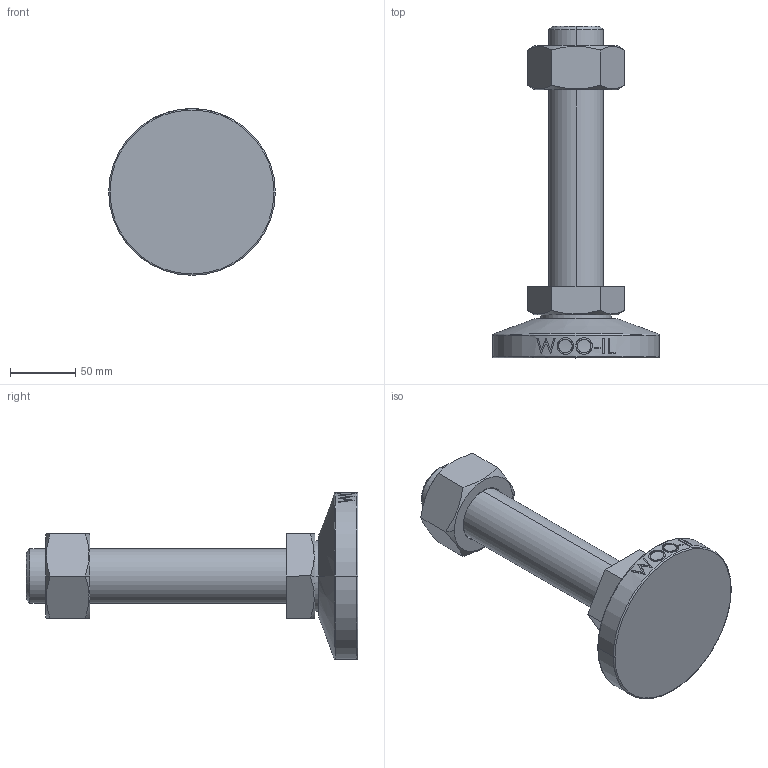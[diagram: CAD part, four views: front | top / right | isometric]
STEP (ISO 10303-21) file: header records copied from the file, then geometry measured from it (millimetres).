
FILE_DESCRIPTION (( 'STEP AP214' ), '1' );
FILE_NAME ('WTr42-128-Tr42-200.step', '2021-02-02T06:07:37', ( '' ), ( '' ), 'SwSTEP 2.0', 'SolidWorks 2019', '' );
FILE_SCHEMA (( 'AUTOMOTIVE_DESIGN' ));
Length unit declared in the file: millimetre
Products named in the file (2): WTr42-128-Tr42-200
Bounding box: 128 x 255 x 128 mm (x, y, z)
Volume: 760967.4 mm3; surface area: 88107.8 mm2
Topology: 3 solids, 3 shells, 97 faces, 225 edges, 144 vertices
Faces by surface type: plane 47, cylinder 16, bspline 16, cone 14, torus 4
Entity records: 4494 total; most frequent: CARTESIAN_POINT 2350, ORIENTED_EDGE 450, DIRECTION 387, EDGE_CURVE 225, AXIS2_PLACEMENT_3D 145, VERTEX_POINT 144, EDGE_LOOP 109, VECTOR 97
